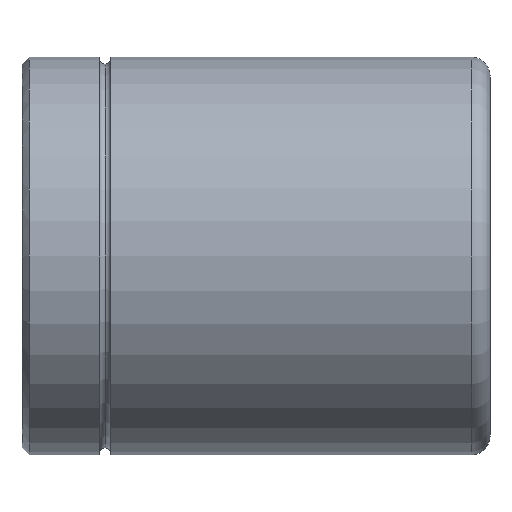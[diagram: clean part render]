
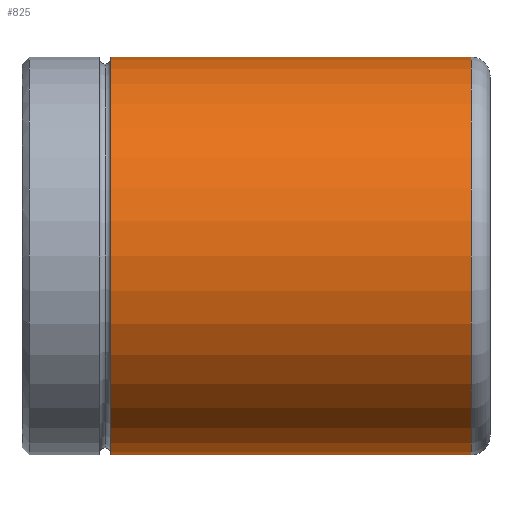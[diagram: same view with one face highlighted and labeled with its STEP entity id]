
A CAD part, front view. The second image highlights one B-rep face of the part: STEP entity #825.
In plain terms, the highlighted cylindrical face has radius 42.5 mm (diameter 85 mm), a partial arc.
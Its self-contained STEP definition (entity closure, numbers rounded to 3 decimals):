
#641=CARTESIAN_POINT('Vertex',(18.975,0.,42.5)) ;
#648=CARTESIAN_POINT('Vertex',(18.975,0.,-42.5)) ;
#674=CARTESIAN_POINT('Axis2P3D Location',(18.975,0.,0.)) ;
#678=CARTESIAN_POINT('Vertex',(18.975,-42.5,0.)) ;
#681=CARTESIAN_POINT('Axis2P3D Location',(18.975,0.,0.)) ;
#765=CARTESIAN_POINT('Line Origine',(100.,0.,42.5)) ;
#769=CARTESIAN_POINT('Vertex',(96.,0.,42.5)) ;
#783=CARTESIAN_POINT('Vertex',(96.,0.,-42.5)) ;
#786=CARTESIAN_POINT('Line Origine',(100.,0.,-42.5)) ;
#800=CARTESIAN_POINT('Axis2P3D Location',(100.,0.,0.)) ;
#805=CARTESIAN_POINT('Axis2P3D Location',(96.,0.,0.)) ;
#809=CARTESIAN_POINT('Vertex',(96.,-42.5,0.)) ;
#812=CARTESIAN_POINT('Axis2P3D Location',(96.,0.,0.)) ;
#675=DIRECTION('Axis2P3D Direction',(1.,0.,-0.)) ;
#682=DIRECTION('Axis2P3D Direction',(1.,0.,-0.)) ;
#766=DIRECTION('Vector Direction',(-1.,0.,0.)) ;
#787=DIRECTION('Vector Direction',(-1.,0.,0.)) ;
#801=DIRECTION('Axis2P3D Direction',(-1.,-0.,-0.)) ;
#802=DIRECTION('Axis2P3D XDirection',(0.,0.,-1.)) ;
#806=DIRECTION('Axis2P3D Direction',(-1.,-0.,-0.)) ;
#813=DIRECTION('Axis2P3D Direction',(-1.,-0.,-0.)) ;
#676=AXIS2_PLACEMENT_3D('Circle Axis2P3D',#674,#675,$) ;
#683=AXIS2_PLACEMENT_3D('Circle Axis2P3D',#681,#682,$) ;
#803=AXIS2_PLACEMENT_3D('Cylinder Axis2P3D',#800,#801,#802) ;
#807=AXIS2_PLACEMENT_3D('Circle Axis2P3D',#805,#806,$) ;
#814=AXIS2_PLACEMENT_3D('Circle Axis2P3D',#812,#813,$) ;
#818=ORIENTED_EDGE('',*,*,#790,.T.) ;
#819=ORIENTED_EDGE('',*,*,#811,.F.) ;
#820=ORIENTED_EDGE('',*,*,#816,.F.) ;
#821=ORIENTED_EDGE('',*,*,#771,.T.) ;
#822=ORIENTED_EDGE('',*,*,#685,.T.) ;
#823=ORIENTED_EDGE('',*,*,#680,.T.) ;
#767=VECTOR('Line Direction',#766,1.) ;
#788=VECTOR('Line Direction',#787,1.) ;
#825=ADVANCED_FACE('347-63 x 100',(#824),#804,.T.) ;
#677=CIRCLE('generated circle',#676,42.5) ;
#684=CIRCLE('generated circle',#683,42.5) ;
#808=CIRCLE('generated circle',#807,42.5) ;
#815=CIRCLE('generated circle',#814,42.5) ;
#804=CYLINDRICAL_SURFACE('generated cylinder',#803,42.5) ;
#680=EDGE_CURVE('',#679,#649,#677,.T.) ;
#685=EDGE_CURVE('',#642,#679,#684,.T.) ;
#771=EDGE_CURVE('',#770,#642,#768,.T.) ;
#790=EDGE_CURVE('',#649,#784,#789,.F.) ;
#811=EDGE_CURVE('',#810,#784,#808,.F.) ;
#816=EDGE_CURVE('',#770,#810,#815,.F.) ;
#817=EDGE_LOOP('',(#818,#819,#820,#821,#822,#823)) ;
#824=FACE_OUTER_BOUND('',#817,.T.) ;
#768=LINE('Line',#765,#767) ;
#789=LINE('Line',#786,#788) ;
#642=VERTEX_POINT('',#641) ;
#649=VERTEX_POINT('',#648) ;
#679=VERTEX_POINT('',#678) ;
#770=VERTEX_POINT('',#769) ;
#784=VERTEX_POINT('',#783) ;
#810=VERTEX_POINT('',#809) ;
